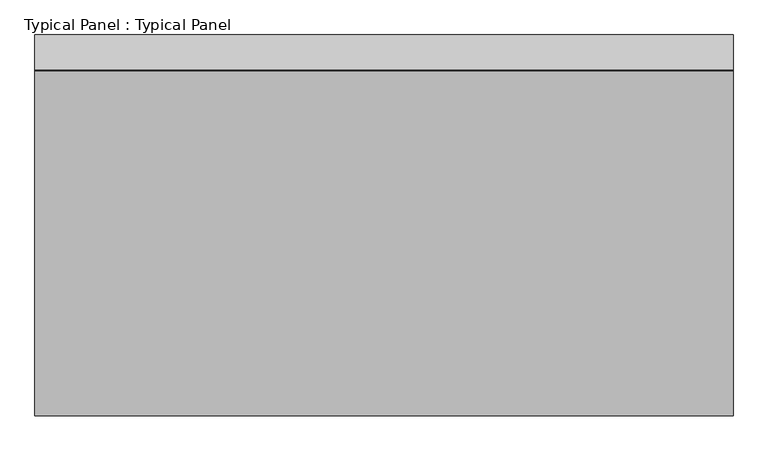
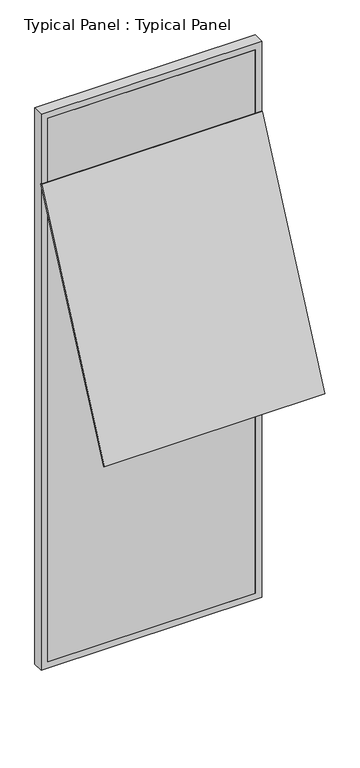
"""IFC4 building model written with IfcOpenShell, lengths in millimetres: plate geometry, Typical Panel : Typical Panel."""

from ifc_helpers import new_model, si_unit, frame, origin, place, context, project, spatial, polyline, outline, extrude, source, transform, mapped, element, save


def typical_panel_typical_panel_5b56934d(model_context):
    return source(origin(), model_context, "Body", "SweptSolid", [
        extrude(outline(polyline([(0.0, -9.9999999), (0.0, 0.0), (1500.0, 0.0), (1500.0, -9.9999999), (0.0, -9.9999999)])), frame((750.0, -744.581958, 1913.9613727), z_axis=(0.0, 0.4226182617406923, 0.9063077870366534), x_axis=(-1.0, 0.0, 0.0)), (0.0, 0.0, 1.0), 1750.0),
        extrude(outline(polyline([(0.0, -750.0), (0.0, 750.0), (4000.0, 750.0), (4000.0, -750.0), (0.0, -750.0)]), holes=[polyline([(45.0, 705.0), (45.0, -705.0), (3955.0, -705.0), (3955.0, 705.0), (45.0, 705.0)])]), frame((0.0, -1.5797986, 0.0), z_axis=(0.0, 1.0, 0.0), x_axis=(0.0, 0.0, 1.0)), (0.0, 0.0, 1.0), 75.0),
        extrude(outline(polyline([(705.0, -1.5797986), (-705.0, -1.5797986), (-705.0, 13.4202014), (705.0, 13.4202014), (705.0, -1.5797986)])), frame((0.0, 0.0, 45.0), z_axis=(0.0, 0.0, 1.0), x_axis=(1.0, 0.0, 0.0)), (0.0, 0.0, 1.0), 3910.0),
    ])


if __name__ == "__main__":
    model = new_model("IFC4")
    model_context = context("Model", 3, world=origin())
    ifc_project = project(units=[si_unit("LENGTHUNIT", "METRE", prefix="MILLI")], contexts=[model_context])
    site = spatial("IfcSite", under=ifc_project)
    building = spatial("IfcBuilding", under=site)
    placement = place(None, origin())
    typical_panel_typical_panel_shape = typical_panel_typical_panel_5b56934d(model_context)
    element("IfcPlate", 1, ObjectType="Typical Panel : Typical Panel", at=placement, inside=building, context=model_context, shape_type="MappedRepresentation", body=[
        mapped(typical_panel_typical_panel_shape, transform((0.0, 0.0, 0.0), x_axis=(1.0, 0.0, 0.0), y_axis=(0.0, 1.0, 0.0), z_axis=(0.0, 0.0, 1.0))),
    ])
    save(model, "model.ifc")
